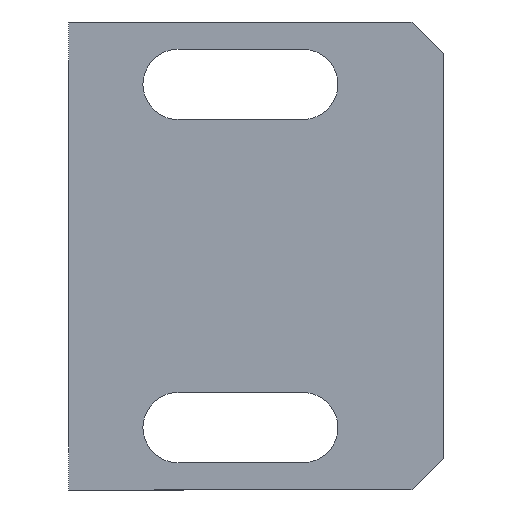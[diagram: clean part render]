
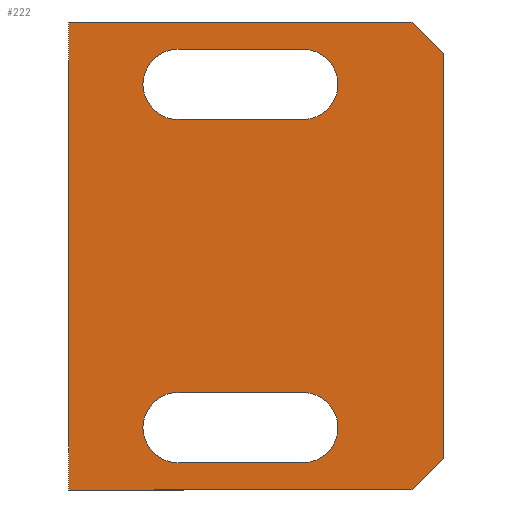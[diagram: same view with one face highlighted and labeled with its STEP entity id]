
A CAD part, front view. The second image highlights one B-rep face of the part: STEP entity #222.
In plain terms, the highlighted planar face has unit normal (0, -1, 0).
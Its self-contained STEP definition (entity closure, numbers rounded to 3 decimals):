
#3 = VERTEX_POINT ( 'NONE', #267 ) ;
#16 = VERTEX_POINT ( 'NONE', #672 ) ;
#23 = VECTOR ( 'NONE', #1116, 1000. ) ;
#35 = CARTESIAN_POINT ( 'NONE',  ( 0., 0., 8.75 ) ) ;
#37 = CARTESIAN_POINT ( 'NONE',  ( 3., 0., -13.25 ) ) ;
#42 = LINE ( 'NONE', #844, #234 ) ;
#43 = LINE ( 'NONE', #899, #140 ) ;
#46 = VERTEX_POINT ( 'NONE', #192 ) ;
#53 = DIRECTION ( 'NONE',  ( 0., 0., 1. ) ) ;
#60 = VECTOR ( 'NONE', #206, 1000. ) ;
#64 = ORIENTED_EDGE ( 'NONE', *, *, #240, .T. ) ;
#74 = LINE ( 'NONE', #204, #60 ) ;
#78 = CARTESIAN_POINT ( 'NONE',  ( -12., 0., -15. ) ) ;
#88 = LINE ( 'NONE', #592, #1122 ) ;
#98 = ORIENTED_EDGE ( 'NONE', *, *, #125, .T. ) ;
#103 = LINE ( 'NONE', #352, #23 ) ;
#104 = FACE_BOUND ( 'NONE', #653, .T. ) ;
#107 = VERTEX_POINT ( 'NONE', #585 ) ;
#121 = ORIENTED_EDGE ( 'NONE', *, *, #449, .F. ) ;
#125 = EDGE_CURVE ( 'NONE', #617, #1026, #759, .T. ) ;
#128 = DIRECTION ( 'NONE',  ( 0., 0., 1. ) ) ;
#134 = DIRECTION ( 'NONE',  ( 0.707, 0., -0.707 ) ) ;
#136 = EDGE_CURVE ( 'NONE', #1024, #853, #74, .T. ) ;
#140 = VECTOR ( 'NONE', #1071, 1000. ) ;
#143 = CARTESIAN_POINT ( 'NONE',  ( 3., 0., 13.25 ) ) ;
#148 = EDGE_CURVE ( 'NONE', #1026, #3, #1050, .T. ) ;
#162 = CARTESIAN_POINT ( 'NONE',  ( -5., 0., 13.25 ) ) ;
#177 = DIRECTION ( 'NONE',  ( 0., 1., 0. ) ) ;
#179 = DIRECTION ( 'NONE',  ( 0., 0., 1. ) ) ;
#187 = ORIENTED_EDGE ( 'NONE', *, *, #444, .T. ) ;
#192 = CARTESIAN_POINT ( 'NONE',  ( -5., 0., 8.75 ) ) ;
#204 = CARTESIAN_POINT ( 'NONE',  ( 12., 0., -13. ) ) ;
#206 = DIRECTION ( 'NONE',  ( -0.707, 0., -0.707 ) ) ;
#222 = ADVANCED_FACE ( 'NONE', ( #1110, #104, #235 ), #603, .F. ) ;
#234 = VECTOR ( 'NONE', #1109, 1000. ) ;
#235 = FACE_OUTER_BOUND ( 'NONE', #981, .T. ) ;
#240 = EDGE_CURVE ( 'NONE', #1000, #535, #43, .T. ) ;
#242 = DIRECTION ( 'NONE',  ( 1., 0., 0. ) ) ;
#246 = VECTOR ( 'NONE', #606, 1000. ) ;
#250 = VERTEX_POINT ( 'NONE', #1163 ) ;
#254 = CARTESIAN_POINT ( 'NONE',  ( -5., 0., -13.25 ) ) ;
#267 = CARTESIAN_POINT ( 'NONE',  ( 3., 0., 8.75 ) ) ;
#275 = AXIS2_PLACEMENT_3D ( 'NONE', #741, #177, #179 ) ;
#288 = AXIS2_PLACEMENT_3D ( 'NONE', #966, #792, #488 ) ;
#294 = ORIENTED_EDGE ( 'NONE', *, *, #1173, .F. ) ;
#331 = EDGE_CURVE ( 'NONE', #250, #1000, #718, .T. ) ;
#334 = CIRCLE ( 'NONE', #288, 2.25 ) ;
#352 = CARTESIAN_POINT ( 'NONE',  ( 10., 0., 15. ) ) ;
#367 = CARTESIAN_POINT ( 'NONE',  ( 10., 0., 15. ) ) ;
#372 = LINE ( 'NONE', #1167, #1160 ) ;
#374 = EDGE_CURVE ( 'NONE', #521, #250, #1164, .T. ) ;
#383 = DIRECTION ( 'NONE',  ( 0., 1., 0. ) ) ;
#408 = CARTESIAN_POINT ( 'NONE',  ( 12., 0., -13. ) ) ;
#444 = EDGE_CURVE ( 'NONE', #535, #521, #647, .T. ) ;
#449 = EDGE_CURVE ( 'NONE', #853, #458, #42, .T. ) ;
#458 = VERTEX_POINT ( 'NONE', #78 ) ;
#488 = DIRECTION ( 'NONE',  ( 0., 0., 1. ) ) ;
#503 = ORIENTED_EDGE ( 'NONE', *, *, #331, .T. ) ;
#521 = VERTEX_POINT ( 'NONE', #652 ) ;
#530 = DIRECTION ( 'NONE',  ( 0., 1., 0. ) ) ;
#535 = VERTEX_POINT ( 'NONE', #254 ) ;
#536 = DIRECTION ( 'NONE',  ( 0., 0., 1. ) ) ;
#540 = EDGE_CURVE ( 'NONE', #16, #683, #103, .T. ) ;
#566 = EDGE_LOOP ( 'NONE', ( #876, #680, #98, #721 ) ) ;
#568 = ORIENTED_EDGE ( 'NONE', *, *, #962, .F. ) ;
#585 = CARTESIAN_POINT ( 'NONE',  ( 12., 0., 13. ) ) ;
#588 = LINE ( 'NONE', #35, #246 ) ;
#592 = CARTESIAN_POINT ( 'NONE',  ( 12., 0., 13. ) ) ;
#594 = VECTOR ( 'NONE', #957, 1000. ) ;
#603 = PLANE ( 'NONE',  #1104 ) ;
#606 = DIRECTION ( 'NONE',  ( -1., 0., 0. ) ) ;
#617 = VERTEX_POINT ( 'NONE', #162 ) ;
#638 = ORIENTED_EDGE ( 'NONE', *, *, #540, .F. ) ;
#643 = CARTESIAN_POINT ( 'NONE',  ( 0., 0., -8.75 ) ) ;
#647 = CIRCLE ( 'NONE', #275, 2.25 ) ;
#652 = CARTESIAN_POINT ( 'NONE',  ( -5., 0., -8.75 ) ) ;
#653 = EDGE_LOOP ( 'NONE', ( #64, #187, #1052, #503 ) ) ;
#656 = AXIS2_PLACEMENT_3D ( 'NONE', #725, #530, #536 ) ;
#672 = CARTESIAN_POINT ( 'NONE',  ( -12., 0., 15. ) ) ;
#680 = ORIENTED_EDGE ( 'NONE', *, *, #1162, .T. ) ;
#683 = VERTEX_POINT ( 'NONE', #367 ) ;
#706 = DIRECTION ( 'NONE',  ( 0., 0., -1. ) ) ;
#718 = CIRCLE ( 'NONE', #656, 2.25 ) ;
#720 = ORIENTED_EDGE ( 'NONE', *, *, #1070, .F. ) ;
#721 = ORIENTED_EDGE ( 'NONE', *, *, #148, .T. ) ;
#725 = CARTESIAN_POINT ( 'NONE',  ( 3., 0., -11. ) ) ;
#741 = CARTESIAN_POINT ( 'NONE',  ( -5., 0., -11. ) ) ;
#759 = LINE ( 'NONE', #772, #594 ) ;
#772 = CARTESIAN_POINT ( 'NONE',  ( 0., 0., 13.25 ) ) ;
#792 = DIRECTION ( 'NONE',  ( 0., 1., 0. ) ) ;
#804 = CARTESIAN_POINT ( 'NONE',  ( -12., 0., 15. ) ) ;
#844 = CARTESIAN_POINT ( 'NONE',  ( 10., 0., -15. ) ) ;
#853 = VERTEX_POINT ( 'NONE', #959 ) ;
#876 = ORIENTED_EDGE ( 'NONE', *, *, #1112, .T. ) ;
#885 = DIRECTION ( 'NONE',  ( 0., 1., 0. ) ) ;
#888 = LINE ( 'NONE', #804, #1132 ) ;
#891 = CARTESIAN_POINT ( 'NONE',  ( 0., 0., 0. ) ) ;
#899 = CARTESIAN_POINT ( 'NONE',  ( 0., 0., -13.25 ) ) ;
#922 = VECTOR ( 'NONE', #242, 1000. ) ;
#957 = DIRECTION ( 'NONE',  ( 1., 0., 0. ) ) ;
#959 = CARTESIAN_POINT ( 'NONE',  ( 10., 0., -15. ) ) ;
#962 = EDGE_CURVE ( 'NONE', #107, #1024, #88, .T. ) ;
#966 = CARTESIAN_POINT ( 'NONE',  ( -5., 0., 11. ) ) ;
#981 = EDGE_LOOP ( 'NONE', ( #720, #121, #1085, #568, #294, #638 ) ) ;
#1000 = VERTEX_POINT ( 'NONE', #37 ) ;
#1024 = VERTEX_POINT ( 'NONE', #408 ) ;
#1026 = VERTEX_POINT ( 'NONE', #143 ) ;
#1043 = AXIS2_PLACEMENT_3D ( 'NONE', #1140, #383, #128 ) ;
#1050 = CIRCLE ( 'NONE', #1043, 2.25 ) ;
#1052 = ORIENTED_EDGE ( 'NONE', *, *, #374, .T. ) ;
#1070 = EDGE_CURVE ( 'NONE', #458, #16, #888, .T. ) ;
#1071 = DIRECTION ( 'NONE',  ( -1., 0., 0. ) ) ;
#1085 = ORIENTED_EDGE ( 'NONE', *, *, #136, .F. ) ;
#1104 = AXIS2_PLACEMENT_3D ( 'NONE', #891, #885, #1171 ) ;
#1109 = DIRECTION ( 'NONE',  ( -1., 0., 0. ) ) ;
#1110 = FACE_BOUND ( 'NONE', #566, .T. ) ;
#1112 = EDGE_CURVE ( 'NONE', #3, #46, #588, .T. ) ;
#1116 = DIRECTION ( 'NONE',  ( 1., 0., 0. ) ) ;
#1122 = VECTOR ( 'NONE', #706, 1000. ) ;
#1132 = VECTOR ( 'NONE', #53, 1000. ) ;
#1140 = CARTESIAN_POINT ( 'NONE',  ( 3., 0., 11. ) ) ;
#1160 = VECTOR ( 'NONE', #134, 1000. ) ;
#1162 = EDGE_CURVE ( 'NONE', #46, #617, #334, .T. ) ;
#1163 = CARTESIAN_POINT ( 'NONE',  ( 3., 0., -8.75 ) ) ;
#1164 = LINE ( 'NONE', #643, #922 ) ;
#1167 = CARTESIAN_POINT ( 'NONE',  ( 10., 0., 15. ) ) ;
#1171 = DIRECTION ( 'NONE',  ( 0., 0., 1. ) ) ;
#1173 = EDGE_CURVE ( 'NONE', #683, #107, #372, .T. ) ;
